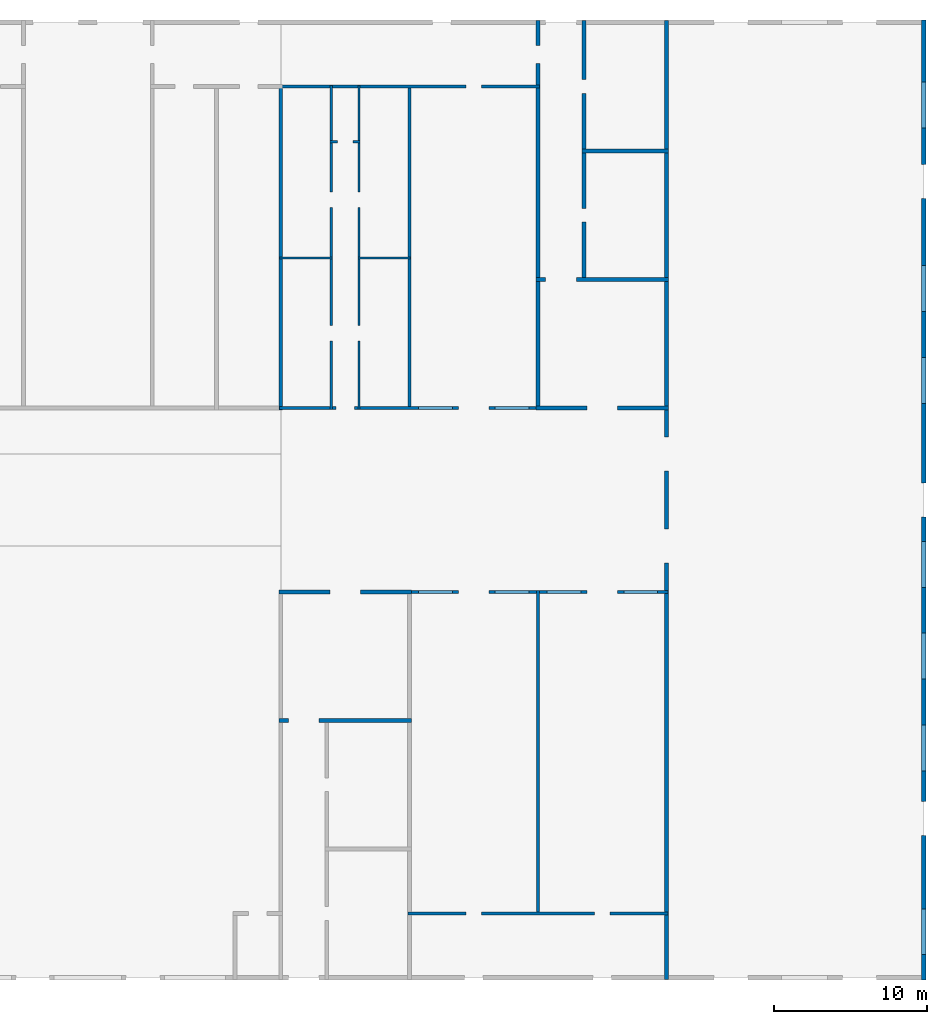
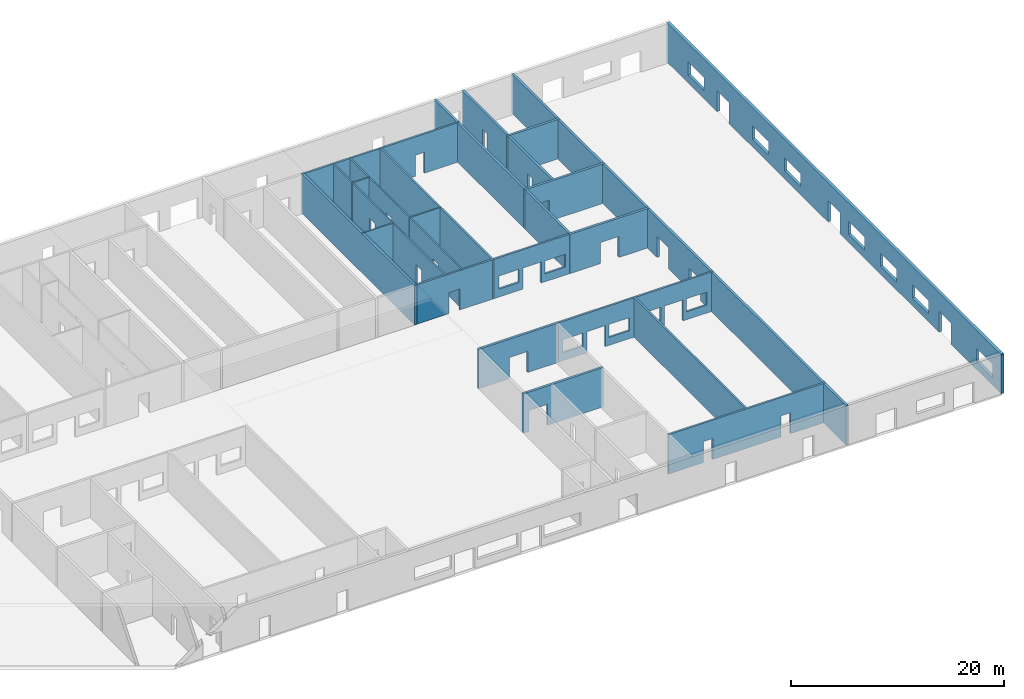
# One storey, part 3 of 3: 21 walls, 49 openings.
"""IFC4 building model written with IfcOpenShell, lengths in millimetres."""

from ifc_helpers import new_model, si_unit, frame, origin_with_axes, place, context, subcontext, project, spatial, indexed_curve, outline, extrude, type_object, element, save


model = new_model("IFC4")

# Units and contexts
model_context = context("Model", 3, precision=1e-05, world=origin_with_axes())
body_context = subcontext(model_context, "Body", "Model", "MODEL_VIEW")
ifc_project = project(units=[si_unit("AREAUNIT", "SQUARE_METRE"), si_unit("VOLUMEUNIT", "CUBIC_METRE"), si_unit("LENGTHUNIT", "METRE", prefix="MILLI")], contexts=[model_context])

# Site, building, storey
site = spatial("IfcSite", under=ifc_project, Name="PIN 00000000 (sample)")
building = spatial("IfcBuilding", under=site, Name="Sample Shopping Mall")
storey = spatial("IfcBuildingStorey", under=building, Name="Ground Floor", Elevation=0.0)

# Wall, openings
wall_type_1 = type_object("IfcWallType", Name="WT-300", PredefinedType="SOLIDWALL")
wall_1_placement = place(None, frame((114750.0, 15449.999999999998, 0.0), z_axis=(0.0, 0.0, 1.0), x_axis=(6.123233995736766e-17, 1.0, 0.0)))
wall_1 = element("IfcWall", 1, at=wall_1_placement, inside=storey, type_object=wall_type_1, Name="W59", context=body_context, shape_type="SweptSolid", body=[
    extrude(outline(indexed_curve([(0.0, 0.0), (0.0, 300.0), (62699.99999999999, 300.0), (62699.99999999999, 0.0), (0.0, 0.0)], self_intersect=False)), origin_with_axes(), (0.0, 0.0, 1.0), 4500.0),
])
opening_1_placement = place(wall_1_placement, frame((9450.0, -99.99999999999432, 0.0), z_axis=(0.0, 0.0, 1.0), x_axis=(1.0, 0.0, 0.0)))
element("IfcOpeningElement", 2, at=opening_1_placement, cuts=wall_1, Name="D16-opening", context=body_context, shape_type="SweptSolid", body=[
    extrude(outline(indexed_curve([(0.0, 0.0), (0.0, 500.0), (1100.0, 500.0), (1100.0, 0.0), (0.0, 0.0)], self_intersect=False)), origin_with_axes(), (0.0, 0.0, 1.0), 2400.0),
])
opening_2_placement = place(wall_1_placement, frame((10550.0, -99.99999999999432, 0.0), z_axis=(0.0, 0.0, 1.0), x_axis=(1.0, 0.0, 0.0)))
element("IfcOpeningElement", 3, at=opening_2_placement, cuts=wall_1, Name="-opening", context=body_context, shape_type="SweptSolid", body=[
    extrude(outline(indexed_curve([(0.0, 0.0), (0.0, 500.0), (1100.0, 500.0), (1100.0, 0.0), (0.0, 0.0)], self_intersect=False)), origin_with_axes(), (0.0, 0.0, 1.0), 2400.0),
])
opening_3_placement = place(wall_1_placement, frame((30250.000000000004, -99.99999999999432, 0.0), z_axis=(0.0, 0.0, 1.0), x_axis=(1.0, 0.0, 0.0)))
element("IfcOpeningElement", 4, at=opening_3_placement, cuts=wall_1, Name="D17-opening", context=body_context, shape_type="SweptSolid", body=[
    extrude(outline(indexed_curve([(0.0, 0.0), (0.0, 500.0), (1100.0, 500.0), (1100.0, 0.0), (0.0, 0.0)], self_intersect=False)), origin_with_axes(), (0.0, 0.0, 1.0), 2400.0),
])
opening_4_placement = place(wall_1_placement, frame((31349.999999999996, -99.99999999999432, 0.0), z_axis=(0.0, 0.0, 1.0), x_axis=(1.0, 0.0, 0.0)))
element("IfcOpeningElement", 5, at=opening_4_placement, cuts=wall_1, Name="-opening", context=body_context, shape_type="SweptSolid", body=[
    extrude(outline(indexed_curve([(0.0, 0.0), (0.0, 500.0), (1100.0, 500.0), (1100.0, 0.0), (0.0, 0.0)], self_intersect=False)), origin_with_axes(), (0.0, 0.0, 1.0), 2400.0),
])
opening_5_placement = place(wall_1_placement, frame((51049.99999999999, -99.99999999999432, 0.0), z_axis=(0.0, 0.0, 1.0), x_axis=(1.0, 0.0, 0.0)))
element("IfcOpeningElement", 6, at=opening_5_placement, cuts=wall_1, Name="D18-opening", context=body_context, shape_type="SweptSolid", body=[
    extrude(outline(indexed_curve([(0.0, 0.0), (0.0, 500.0), (1100.0, 500.0), (1100.0, 0.0), (0.0, 0.0)], self_intersect=False)), origin_with_axes(), (0.0, 0.0, 1.0), 2400.0),
])
opening_6_placement = place(wall_1_placement, frame((52149.99999999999, -99.99999999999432, 0.0), z_axis=(0.0, 0.0, 1.0), x_axis=(1.0, 0.0, 0.0)))
element("IfcOpeningElement", 7, at=opening_6_placement, cuts=wall_1, Name="-opening", context=body_context, shape_type="SweptSolid", body=[
    extrude(outline(indexed_curve([(0.0, 0.0), (0.0, 500.0), (1100.0, 500.0), (1100.0, 0.0), (0.0, 0.0)], self_intersect=False)), origin_with_axes(), (0.0, 0.0, 1.0), 2400.0),
])
opening_7_placement = place(wall_1_placement, frame((1650.000000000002, -99.99999999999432, 900.0), z_axis=(0.0, 0.0, 1.0), x_axis=(1.0, 0.0, 0.0)))
element("IfcOpeningElement", 8, at=opening_7_placement, cuts=wall_1, Name="-opening", context=body_context, shape_type="SweptSolid", body=[
    extrude(outline(indexed_curve([(0.0, 0.0), (0.0, 500.0), (3000.0, 500.0), (3000.0, 0.0), (0.0, 0.0)], self_intersect=False)), origin_with_axes(), (0.0, 0.0, 1.0), 1500.0),
])
opening_8_placement = place(wall_1_placement, frame((13650.000000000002, -99.99999999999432, 900.0), z_axis=(0.0, 0.0, 1.0), x_axis=(1.0, 0.0, 0.0)))
element("IfcOpeningElement", 9, at=opening_8_placement, cuts=wall_1, Name="-opening", context=body_context, shape_type="SweptSolid", body=[
    extrude(outline(indexed_curve([(0.0, 0.0), (0.0, 500.0), (3000.0, 500.0), (3000.0, 0.0), (0.0, 0.0)], self_intersect=False)), origin_with_axes(), (0.0, 0.0, 1.0), 1500.0),
])
opening_9_placement = place(wall_1_placement, frame((19650.0, -99.99999999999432, 900.0), z_axis=(0.0, 0.0, 1.0), x_axis=(1.0, 0.0, 0.0)))
element("IfcOpeningElement", 10, at=opening_9_placement, cuts=wall_1, Name="-opening", context=body_context, shape_type="SweptSolid", body=[
    extrude(outline(indexed_curve([(0.0, 0.0), (0.0, 500.0), (3000.0, 500.0), (3000.0, 0.0), (0.0, 0.0)], self_intersect=False)), origin_with_axes(), (0.0, 0.0, 1.0), 1500.0),
])
opening_10_placement = place(wall_1_placement, frame((25650.0, -99.99999999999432, 900.0), z_axis=(0.0, 0.0, 1.0), x_axis=(1.0, 0.0, 0.0)))
element("IfcOpeningElement", 11, at=opening_10_placement, cuts=wall_1, Name="-opening", context=body_context, shape_type="SweptSolid", body=[
    extrude(outline(indexed_curve([(0.0, 0.0), (0.0, 500.0), (3000.0, 500.0), (3000.0, 0.0), (0.0, 0.0)], self_intersect=False)), origin_with_axes(), (0.0, 0.0, 1.0), 1500.0),
])
opening_11_placement = place(wall_1_placement, frame((37650.00000000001, -99.99999999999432, 900.0), z_axis=(0.0, 0.0, 1.0), x_axis=(1.0, 0.0, 0.0)))
element("IfcOpeningElement", 12, at=opening_11_placement, cuts=wall_1, Name="-opening", context=body_context, shape_type="SweptSolid", body=[
    extrude(outline(indexed_curve([(0.0, 0.0), (0.0, 500.0), (3000.0, 500.0), (3000.0, 0.0), (0.0, 0.0)], self_intersect=False)), origin_with_axes(), (0.0, 0.0, 1.0), 1500.0),
])
opening_12_placement = place(wall_1_placement, frame((43650.00000000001, -99.99999999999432, 900.0), z_axis=(0.0, 0.0, 1.0), x_axis=(1.0, 0.0, 0.0)))
element("IfcOpeningElement", 13, at=opening_12_placement, cuts=wall_1, Name="-opening", context=body_context, shape_type="SweptSolid", body=[
    extrude(outline(indexed_curve([(0.0, 0.0), (0.0, 500.0), (3000.0, 500.0), (3000.0, 0.0), (0.0, 0.0)], self_intersect=False)), origin_with_axes(), (0.0, 0.0, 1.0), 1500.0),
])
opening_13_placement = place(wall_1_placement, frame((55650.00000000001, -99.99999999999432, 900.0), z_axis=(0.0, 0.0, 1.0), x_axis=(1.0, 0.0, 0.0)))
element("IfcOpeningElement", 14, at=opening_13_placement, cuts=wall_1, Name="-opening", context=body_context, shape_type="SweptSolid", body=[
    extrude(outline(indexed_curve([(0.0, 0.0), (0.0, 500.0), (3000.0, 500.0), (3000.0, 0.0), (0.0, 0.0)], self_intersect=False)), origin_with_axes(), (0.0, 0.0, 1.0), 1500.0),
])

wall_type_2 = type_object("IfcWallType", Name="WT-200", PredefinedType="SOLIDWALL")
wall_2_placement = place(None, frame((80900.0, 19700.0, 0.0), z_axis=(0.0, 0.0, 1.0), x_axis=(1.0, 0.0, 0.0)))
wall_2 = element("IfcWall", 15, at=wall_2_placement, inside=storey, type_object=wall_type_2, Name="W4", context=body_context, shape_type="SweptSolid", body=[
    extrude(outline(indexed_curve([(0.0, 0.0), (0.0, 200.0), (16999.999999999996, 200.0), (16999.999999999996, 0.0), (0.0, 0.0)], self_intersect=False)), origin_with_axes(), (0.0, 0.0, 1.0), 4500.0),
])
opening_14_placement = place(wall_2_placement, frame((3799.9999999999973, -99.99999999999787, 0.0), z_axis=(0.0, 0.0, 1.0), x_axis=(1.0, 0.0, 0.0)))
element("IfcOpeningElement", 16, at=opening_14_placement, cuts=wall_2, Name="-opening", context=body_context, shape_type="SweptSolid", body=[
    extrude(outline(indexed_curve([(0.0, 0.0), (0.0, 400.0), (1000.0, 400.0), (1000.0, 0.0), (0.0, 0.0)], self_intersect=False)), origin_with_axes(), (0.0, 0.0, 1.0), 2400.0),
])
opening_15_placement = place(wall_2_placement, frame((12199.999999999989, -99.99999999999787, 0.0), z_axis=(0.0, 0.0, 1.0), x_axis=(1.0, 0.0, 0.0)))
element("IfcOpeningElement", 17, at=opening_15_placement, cuts=wall_2, Name="-opening", context=body_context, shape_type="SweptSolid", body=[
    extrude(outline(indexed_curve([(0.0, 0.0), (0.0, 400.0), (1000.0, 400.0), (1000.0, 0.0), (0.0, 0.0)], self_intersect=False)), origin_with_axes(), (0.0, 0.0, 1.0), 2400.0),
])

wall_3_placement = place(None, frame((80900.0, 40699.99999999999, 0.0), z_axis=(0.0, 0.0, 1.0), x_axis=(1.0, 0.0, 0.0)))
wall_3 = element("IfcWall", 18, at=wall_3_placement, inside=storey, type_object=wall_type_2, Name="W12", context=body_context, shape_type="SweptSolid", body=[
    extrude(outline(indexed_curve([(0.0, 0.0), (0.0, 200.0), (16999.999999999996, 200.0), (16999.999999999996, 0.0), (0.0, 0.0)], self_intersect=False)), origin_with_axes(), (0.0, 0.0, 1.0), 4500.0),
])
opening_16_placement = place(wall_3_placement, frame((3299.9999999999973, -100.00000000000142, 0.0), z_axis=(0.0, 0.0, 1.0), x_axis=(1.0, 0.0, 0.0)))
element("IfcOpeningElement", 19, at=opening_16_placement, cuts=wall_3, Name="D46-opening", context=body_context, shape_type="SweptSolid", body=[
    extrude(outline(indexed_curve([(0.0, 0.0), (0.0, 400.0), (1000.0, 400.0), (1000.0, 0.0), (0.0, 0.0)], self_intersect=False)), origin_with_axes(), (0.0, 0.0, 1.0), 2400.0),
])
opening_17_placement = place(wall_3_placement, frame((4299.999999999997, -100.00000000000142, 0.0), z_axis=(0.0, 0.0, 1.0), x_axis=(1.0, 0.0, 0.0)))
element("IfcOpeningElement", 20, at=opening_17_placement, cuts=wall_3, Name="-opening", context=body_context, shape_type="SweptSolid", body=[
    extrude(outline(indexed_curve([(0.0, 0.0), (0.0, 400.0), (1000.0, 400.0), (1000.0, 0.0), (0.0, 0.0)], self_intersect=False)), origin_with_axes(), (0.0, 0.0, 1.0), 2400.0),
])
opening_18_placement = place(wall_3_placement, frame((11699.999999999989, -100.00000000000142, 0.0), z_axis=(0.0, 0.0, 1.0), x_axis=(1.0, 0.0, 0.0)))
element("IfcOpeningElement", 21, at=opening_18_placement, cuts=wall_3, Name="D48-opening", context=body_context, shape_type="SweptSolid", body=[
    extrude(outline(indexed_curve([(0.0, 0.0), (0.0, 400.0), (1000.0, 400.0), (1000.0, 0.0), (0.0, 0.0)], self_intersect=False)), origin_with_axes(), (0.0, 0.0, 1.0), 2400.0),
])
opening_19_placement = place(wall_3_placement, frame((12699.999999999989, -100.00000000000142, 0.0), z_axis=(0.0, 0.0, 1.0), x_axis=(1.0, 0.0, 0.0)))
element("IfcOpeningElement", 22, at=opening_19_placement, cuts=wall_3, Name="-opening", context=body_context, shape_type="SweptSolid", body=[
    extrude(outline(indexed_curve([(0.0, 0.0), (0.0, 400.0), (1000.0, 400.0), (1000.0, 0.0), (0.0, 0.0)], self_intersect=False)), origin_with_axes(), (0.0, 0.0, 1.0), 2400.0),
])
opening_20_placement = place(wall_3_placement, frame((699.9999999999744, -100.00000000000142, 900.0), z_axis=(0.0, 0.0, 1.0), x_axis=(1.0, 0.0, 0.0)))
element("IfcOpeningElement", 23, at=opening_20_placement, cuts=wall_3, Name="-opening", context=body_context, shape_type="SweptSolid", body=[
    extrude(outline(indexed_curve([(0.0, 0.0), (0.0, 400.0), (2200.0, 400.0), (2200.0, 0.0), (0.0, 0.0)], self_intersect=False)), origin_with_axes(), (0.0, 0.0, 1.0), 1500.0),
])
opening_21_placement = place(wall_3_placement, frame((5699.999999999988, -100.00000000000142, 900.0), z_axis=(0.0, 0.0, 1.0), x_axis=(1.0, 0.0, 0.0)))
element("IfcOpeningElement", 24, at=opening_21_placement, cuts=wall_3, Name="-opening", context=body_context, shape_type="SweptSolid", body=[
    extrude(outline(indexed_curve([(0.0, 0.0), (0.0, 400.0), (2200.0, 400.0), (2200.0, 0.0), (0.0, 0.0)], self_intersect=False)), origin_with_axes(), (0.0, 0.0, 1.0), 1500.0),
])
opening_22_placement = place(wall_3_placement, frame((9099.999999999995, -100.00000000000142, 900.0), z_axis=(0.0, 0.0, 1.0), x_axis=(1.0, 0.0, 0.0)))
element("IfcOpeningElement", 25, at=opening_22_placement, cuts=wall_3, Name="-opening", context=body_context, shape_type="SweptSolid", body=[
    extrude(outline(indexed_curve([(0.0, 0.0), (0.0, 400.0), (2200.0, 400.0), (2200.0, 0.0), (0.0, 0.0)], self_intersect=False)), origin_with_axes(), (0.0, 0.0, 1.0), 1500.0),
])
opening_23_placement = place(wall_3_placement, frame((14099.999999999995, -100.00000000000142, 900.0), z_axis=(0.0, 0.0, 1.0), x_axis=(1.0, 0.0, 0.0)))
element("IfcOpeningElement", 26, at=opening_23_placement, cuts=wall_3, Name="-opening", context=body_context, shape_type="SweptSolid", body=[
    extrude(outline(indexed_curve([(0.0, 0.0), (0.0, 400.0), (2200.0, 400.0), (2200.0, 0.0), (0.0, 0.0)], self_intersect=False)), origin_with_axes(), (0.0, 0.0, 1.0), 1500.0),
])

wall_4_placement = place(None, frame((72500.0, 52699.99999999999, 0.0), z_axis=(0.0, 0.0, 1.0), x_axis=(1.0, 0.0, 0.0)))
wall_4 = element("IfcWall", 27, at=wall_4_placement, inside=storey, type_object=wall_type_2, Name="W15", context=body_context, shape_type="SweptSolid", body=[
    extrude(outline(indexed_curve([(0.0, 0.0), (0.0, 200.0), (17000.00000000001, 200.0), (17000.00000000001, 0.0), (0.0, 0.0)], self_intersect=False)), origin_with_axes(), (0.0, 0.0, 1.0), 4500.0),
])
opening_24_placement = place(wall_4_placement, frame((3699.9999999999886, -100.00000000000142, 0.0), z_axis=(0.0, 0.0, 1.0), x_axis=(1.0, 0.0, 0.0)))
element("IfcOpeningElement", 28, at=opening_24_placement, cuts=wall_4, Name="D68-opening", context=body_context, shape_type="SweptSolid", body=[
    extrude(outline(indexed_curve([(0.0, 0.0), (0.0, 400.0), (1200.0, 400.0), (1200.0, 0.0), (0.0, 0.0)], self_intersect=False)), origin_with_axes(), (0.0, 0.0, 1.0), 2400.0),
])
opening_25_placement = place(wall_4_placement, frame((11699.999999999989, -100.00000000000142, 0.0), z_axis=(0.0, 0.0, 1.0), x_axis=(1.0, 0.0, 0.0)))
element("IfcOpeningElement", 29, at=opening_25_placement, cuts=wall_4, Name="D74-opening", context=body_context, shape_type="SweptSolid", body=[
    extrude(outline(indexed_curve([(0.0, 0.0), (0.0, 400.0), (1000.0, 400.0), (1000.0, 0.0), (0.0, 0.0)], self_intersect=False)), origin_with_axes(), (0.0, 0.0, 1.0), 2400.0),
])
opening_26_placement = place(wall_4_placement, frame((12699.999999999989, -100.00000000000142, 0.0), z_axis=(0.0, 0.0, 1.0), x_axis=(1.0, 0.0, 0.0)))
element("IfcOpeningElement", 30, at=opening_26_placement, cuts=wall_4, Name="-opening", context=body_context, shape_type="SweptSolid", body=[
    extrude(outline(indexed_curve([(0.0, 0.0), (0.0, 400.0), (1000.0, 400.0), (1000.0, 0.0), (0.0, 0.0)], self_intersect=False)), origin_with_axes(), (0.0, 0.0, 1.0), 2400.0),
])
opening_27_placement = place(wall_4_placement, frame((9099.99999999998, -100.00000000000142, 900.0), z_axis=(0.0, 0.0, 1.0), x_axis=(1.0, 0.0, 0.0)))
element("IfcOpeningElement", 31, at=opening_27_placement, cuts=wall_4, Name="-opening", context=body_context, shape_type="SweptSolid", body=[
    extrude(outline(indexed_curve([(0.0, 0.0), (0.0, 400.0), (2200.0, 400.0), (2200.0, 0.0), (0.0, 0.0)], self_intersect=False)), origin_with_axes(), (0.0, 0.0, 1.0), 1500.0),
])
opening_28_placement = place(wall_4_placement, frame((14099.999999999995, -100.00000000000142, 900.0), z_axis=(0.0, 0.0, 1.0), x_axis=(1.0, 0.0, 0.0)))
element("IfcOpeningElement", 32, at=opening_28_placement, cuts=wall_4, Name="-opening", context=body_context, shape_type="SweptSolid", body=[
    extrude(outline(indexed_curve([(0.0, 0.0), (0.0, 400.0), (2200.0, 400.0), (2200.0, 0.0), (0.0, 0.0)], self_intersect=False)), origin_with_axes(), (0.0, 0.0, 1.0), 1500.0),
])

# Wall, opening
wall_5_placement = place(None, frame((72500.0, 73700.0, 0.0), z_axis=(0.0, 0.0, 1.0), x_axis=(1.0, 0.0, 0.0)))
wall_5 = element("IfcWall", 33, at=wall_5_placement, inside=storey, type_object=wall_type_2, Name="W28", context=body_context, shape_type="SweptSolid", body=[
    extrude(outline(indexed_curve([(0.0, 0.0), (0.0, 200.0), (17000.00000000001, 200.0), (17000.00000000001, 0.0), (0.0, 0.0)], self_intersect=False)), origin_with_axes(), (0.0, 0.0, 1.0), 4500.0),
])
opening_29_placement = place(wall_5_placement, frame((12199.999999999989, -99.99999999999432, 0.0), z_axis=(0.0, 0.0, 1.0), x_axis=(1.0, 0.0, 0.0)))
element("IfcOpeningElement", 34, at=opening_29_placement, cuts=wall_5, Name="-opening", context=body_context, shape_type="SweptSolid", body=[
    extrude(outline(indexed_curve([(0.0, 0.0), (0.0, 400.0), (1000.0, 400.0), (1000.0, 0.0), (0.0, 0.0)], self_intersect=False)), origin_with_axes(), (0.0, 0.0, 1.0), 2400.0),
])

# Walls
wall_6_placement = place(None, frame((81099.99999999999, 52699.99999999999, 0.0), z_axis=(0.0, 0.0, 1.0), x_axis=(6.123233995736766e-17, 1.0, 0.0)))
element("IfcWall", 35, at=wall_6_placement, inside=storey, type_object=wall_type_2, Name="W54", context=body_context, shape_type="SweptSolid", body=[
    extrude(outline(indexed_curve([(0.0, 0.0), (0.0, 200.0), (21200.0, 200.0), (21200.0, 0.0), (0.0, 0.0)], self_intersect=False)), origin_with_axes(), (0.0, 0.0, 1.0), 4500.0),
])
wall_7_placement = place(None, frame((89500.0, 19700.0, 0.0), z_axis=(0.0, 0.0, 1.0), x_axis=(6.123233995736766e-17, 1.0, 0.0)))
element("IfcWall", 36, at=wall_7_placement, inside=storey, type_object=wall_type_2, Name="W55", context=body_context, shape_type="SweptSolid", body=[
    extrude(outline(indexed_curve([(0.0, 0.0), (0.0, 200.0), (21199.999999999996, 200.0), (21199.999999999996, 0.0), (0.0, 0.0)], self_intersect=False)), origin_with_axes(), (0.0, 0.0, 1.0), 4500.0),
])

# Wall, openings
wall_type_3 = type_object("IfcWallType", Name="WT-250", PredefinedType="SOLIDWALL")
wall_8_placement = place(None, frame((72475.0, 32274.999999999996, 0.0), z_axis=(0.0, 0.0, 1.0), x_axis=(1.0, 0.0, 0.0)))
wall_8 = element("IfcWall", 37, at=wall_8_placement, inside=storey, type_object=wall_type_3, Name="W8", context=body_context, shape_type="SweptSolid", body=[
    extrude(outline(indexed_curve([(0.0, 0.0), (0.0, 250.0), (8650.000000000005, 250.0), (8650.000000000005, 0.0), (0.0, 0.0)], self_intersect=False)), origin_with_axes(), (0.0, 0.0, 1.0), 4500.0),
])
opening_30_placement = place(wall_8_placement, frame((625.0, -100.00000000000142, 0.0), z_axis=(0.0, 0.0, 1.0), x_axis=(1.0, 0.0, 0.0)))
element("IfcOpeningElement", 38, at=opening_30_placement, cuts=wall_8, Name="D42-opening", context=body_context, shape_type="SweptSolid", body=[
    extrude(outline(indexed_curve([(0.0, 0.0), (0.0, 450.0), (1000.0, 450.0), (1000.0, 0.0), (0.0, 0.0)], self_intersect=False)), origin_with_axes(), (0.0, 0.0, 1.0), 2400.0),
])
opening_31_placement = place(wall_8_placement, frame((1625.0, -100.00000000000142, 0.0), z_axis=(0.0, 0.0, 1.0), x_axis=(1.0, 0.0, 0.0)))
element("IfcOpeningElement", 39, at=opening_31_placement, cuts=wall_8, Name="-opening", context=body_context, shape_type="SweptSolid", body=[
    extrude(outline(indexed_curve([(0.0, 0.0), (0.0, 450.0), (1000.0, 450.0), (1000.0, 0.0), (0.0, 0.0)], self_intersect=False)), origin_with_axes(), (0.0, 0.0, 1.0), 2400.0),
])

wall_9_placement = place(None, frame((72475.0, 40674.99999999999, 0.0), z_axis=(0.0, 0.0, 1.0), x_axis=(1.0, 0.0, 0.0)))
wall_9 = element("IfcWall", 40, at=wall_9_placement, inside=storey, type_object=wall_type_3, Name="W11", context=body_context, shape_type="SweptSolid", body=[
    extrude(outline(indexed_curve([(0.0, 0.0), (0.0, 250.0), (8650.000000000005, 250.0), (8650.000000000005, 0.0), (0.0, 0.0)], self_intersect=False)), origin_with_axes(), (0.0, 0.0, 1.0), 4500.0),
])
opening_32_placement = place(wall_9_placement, frame((3324.9999999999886, -99.99999999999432, 0.0), z_axis=(0.0, 0.0, 1.0), x_axis=(1.0, 0.0, 0.0)))
element("IfcOpeningElement", 41, at=opening_32_placement, cuts=wall_9, Name="D41-opening", context=body_context, shape_type="SweptSolid", body=[
    extrude(outline(indexed_curve([(0.0, 0.0), (0.0, 450.0), (1000.0, 450.0), (1000.0, 0.0), (0.0, 0.0)], self_intersect=False)), origin_with_axes(), (0.0, 0.0, 1.0), 2400.0),
])
opening_33_placement = place(wall_9_placement, frame((4324.999999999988, -99.99999999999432, 0.0), z_axis=(0.0, 0.0, 1.0), x_axis=(1.0, 0.0, 0.0)))
element("IfcOpeningElement", 42, at=opening_33_placement, cuts=wall_9, Name="-opening", context=body_context, shape_type="SweptSolid", body=[
    extrude(outline(indexed_curve([(0.0, 0.0), (0.0, 450.0), (1000.0, 450.0), (1000.0, 0.0), (0.0, 0.0)], self_intersect=False)), origin_with_axes(), (0.0, 0.0, 1.0), 2400.0),
])

wall_10_placement = place(None, frame((89275.0, 52674.99999999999, 0.0), z_axis=(0.0, 0.0, 1.0), x_axis=(1.0, 0.0, 0.0)))
wall_10 = element("IfcWall", 43, at=wall_10_placement, inside=storey, type_object=wall_type_3, Name="W16", context=body_context, shape_type="SweptSolid", body=[
    extrude(outline(indexed_curve([(0.0, 0.0), (0.0, 250.0), (8649.99999999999, 250.0), (8649.99999999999, 0.0), (0.0, 0.0)], self_intersect=False)), origin_with_axes(), (0.0, 0.0, 1.0), 4500.0),
])
opening_34_placement = place(wall_10_placement, frame((3325.0000000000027, -100.00000000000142, 0.0), z_axis=(0.0, 0.0, 1.0), x_axis=(1.0, 0.0, 0.0)))
element("IfcOpeningElement", 44, at=opening_34_placement, cuts=wall_10, Name="D76-opening", context=body_context, shape_type="SweptSolid", body=[
    extrude(outline(indexed_curve([(0.0, 0.0), (0.0, 450.0), (1000.0, 450.0), (1000.0, 0.0), (0.0, 0.0)], self_intersect=False)), origin_with_axes(), (0.0, 0.0, 1.0), 2400.0),
])
opening_35_placement = place(wall_10_placement, frame((4325.000000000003, -100.00000000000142, 0.0), z_axis=(0.0, 0.0, 1.0), x_axis=(1.0, 0.0, 0.0)))
element("IfcOpeningElement", 45, at=opening_35_placement, cuts=wall_10, Name="-opening", context=body_context, shape_type="SweptSolid", body=[
    extrude(outline(indexed_curve([(0.0, 0.0), (0.0, 450.0), (1000.0, 450.0), (1000.0, 0.0), (0.0, 0.0)], self_intersect=False)), origin_with_axes(), (0.0, 0.0, 1.0), 2400.0),
])

wall_11_placement = place(None, frame((89275.0, 61075.0, 0.0), z_axis=(0.0, 0.0, 1.0), x_axis=(1.0, 0.0, 0.0)))
wall_11 = element("IfcWall", 46, at=wall_11_placement, inside=storey, type_object=wall_type_3, Name="W17", context=body_context, shape_type="SweptSolid", body=[
    extrude(outline(indexed_curve([(0.0, 0.0), (0.0, 250.0), (8649.99999999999, 250.0), (8649.99999999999, 0.0), (0.0, 0.0)], self_intersect=False)), origin_with_axes(), (0.0, 0.0, 1.0), 4500.0),
])
opening_36_placement = place(wall_11_placement, frame((625.0, -100.00000000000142, 0.0), z_axis=(0.0, 0.0, 1.0), x_axis=(1.0, 0.0, 0.0)))
element("IfcOpeningElement", 47, at=opening_36_placement, cuts=wall_11, Name="D77-opening", context=body_context, shape_type="SweptSolid", body=[
    extrude(outline(indexed_curve([(0.0, 0.0), (0.0, 450.0), (1000.0, 450.0), (1000.0, 0.0), (0.0, 0.0)], self_intersect=False)), origin_with_axes(), (0.0, 0.0, 1.0), 2400.0),
])
opening_37_placement = place(wall_11_placement, frame((1625.0, -100.00000000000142, 0.0), z_axis=(0.0, 0.0, 1.0), x_axis=(1.0, 0.0, 0.0)))
element("IfcOpeningElement", 48, at=opening_37_placement, cuts=wall_11, Name="-opening", context=body_context, shape_type="SweptSolid", body=[
    extrude(outline(indexed_curve([(0.0, 0.0), (0.0, 450.0), (1000.0, 450.0), (1000.0, 0.0), (0.0, 0.0)], self_intersect=False)), origin_with_axes(), (0.0, 0.0, 1.0), 2400.0),
])

# Walls
wall_12_placement = place(None, frame((92275.0, 69475.0, 0.0), z_axis=(0.0, 0.0, 1.0), x_axis=(1.0, 0.0, 0.0)))
element("IfcWall", 49, at=wall_12_placement, inside=storey, type_object=wall_type_3, Name="W22", context=body_context, shape_type="SweptSolid", body=[
    extrude(outline(indexed_curve([(0.0, 0.0), (0.0, 250.0), (5649.999999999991, 250.0), (5649.999999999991, 0.0), (0.0, 0.0)], self_intersect=False)), origin_with_axes(), (0.0, 0.0, 1.0), 4500.0),
])
wall_13_placement = place(None, frame((72725.0, 52674.99999999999, 0.0), z_axis=(0.0, 0.0, 1.0), x_axis=(6.123233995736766e-17, 1.0, 0.0)))
element("IfcWall", 50, at=wall_13_placement, inside=storey, type_object=wall_type_3, Name="W49", context=body_context, shape_type="SweptSolid", body=[
    extrude(outline(indexed_curve([(0.0, 0.0), (0.0, 250.0), (21250.0, 250.0), (21250.0, 0.0), (0.0, 0.0)], self_intersect=False)), origin_with_axes(), (0.0, 0.0, 1.0), 4500.0),
])

# Wall, opening
wall_14_placement = place(None, frame((89525.0, 52674.99999999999, 0.0), z_axis=(0.0, 0.0, 1.0), x_axis=(6.123233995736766e-17, 1.0, 0.0)))
wall_14 = element("IfcWall", 51, at=wall_14_placement, inside=storey, type_object=wall_type_3, Name="W56", context=body_context, shape_type="SweptSolid", body=[
    extrude(outline(indexed_curve([(0.0, 0.0), (0.0, 250.0), (25450.000000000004, 250.0), (25450.000000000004, 0.0), (0.0, 0.0)], self_intersect=False)), origin_with_axes(), (0.0, 0.0, 1.0), 4500.0),
])
opening_38_placement = place(wall_14_placement, frame((22624.999999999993, -99.99999999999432, 0.0), z_axis=(0.0, 0.0, 1.0), x_axis=(1.0, 0.0, 0.0)))
element("IfcOpeningElement", 52, at=opening_38_placement, cuts=wall_14, Name="-opening", context=body_context, shape_type="SweptSolid", body=[
    extrude(outline(indexed_curve([(0.0, 0.0), (0.0, 450.0), (1200.0, 450.0), (1200.0, 0.0), (0.0, 0.0)], self_intersect=False)), origin_with_axes(), (0.0, 0.0, 1.0), 2400.0),
])

# Wall, openings
wall_15_placement = place(None, frame((92525.0, 61075.0, 0.0), z_axis=(0.0, 0.0, 1.0), x_axis=(6.123233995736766e-17, 1.0, 0.0)))
wall_15 = element("IfcWall", 53, at=wall_15_placement, inside=storey, type_object=wall_type_3, Name="W57", context=body_context, shape_type="SweptSolid", body=[
    extrude(outline(indexed_curve([(0.0, 0.0), (0.0, 250.0), (17049.999999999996, 250.0), (17049.999999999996, 0.0), (0.0, 0.0)], self_intersect=False)), origin_with_axes(), (0.0, 0.0, 1.0), 4500.0),
])
opening_39_placement = place(wall_15_placement, frame((3874.9999999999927, -99.99999999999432, 0.0), z_axis=(0.0, 0.0, 1.0), x_axis=(1.0, 0.0, 0.0)))
element("IfcOpeningElement", 54, at=opening_39_placement, cuts=wall_15, Name="-opening", context=body_context, shape_type="SweptSolid", body=[
    extrude(outline(indexed_curve([(0.0, 0.0), (0.0, 450.0), (900.0, 450.0), (900.0, 0.0), (0.0, 0.0)], self_intersect=False)), origin_with_axes(), (0.0, 0.0, 1.0), 2400.0),
])
opening_40_placement = place(wall_15_placement, frame((12274.999999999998, -99.99999999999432, 0.0), z_axis=(0.0, 0.0, 1.0), x_axis=(1.0, 0.0, 0.0)))
element("IfcOpeningElement", 55, at=opening_40_placement, cuts=wall_15, Name="-opening", context=body_context, shape_type="SweptSolid", body=[
    extrude(outline(indexed_curve([(0.0, 0.0), (0.0, 450.0), (900.0, 450.0), (900.0, 0.0), (0.0, 0.0)], self_intersect=False)), origin_with_axes(), (0.0, 0.0, 1.0), 2400.0),
])

wall_16_placement = place(None, frame((97925.0, 15475.0, 0.0), z_axis=(0.0, 0.0, 1.0), x_axis=(6.123233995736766e-17, 1.0, 0.0)))
wall_16 = element("IfcWall", 56, at=wall_16_placement, inside=storey, type_object=wall_type_3, Name="W58", context=body_context, shape_type="SweptSolid", body=[
    extrude(outline(indexed_curve([(0.0, 0.0), (0.0, 250.0), (62650.0, 250.0), (62650.0, 0.0), (0.0, 0.0)], self_intersect=False)), origin_with_axes(), (0.0, 0.0, 1.0), 4500.0),
])
opening_41_placement = place(wall_16_placement, frame((27225.000000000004, -99.99999999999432, 0.0), z_axis=(0.0, 0.0, 1.0), x_axis=(1.0, 0.0, 0.0)))
element("IfcOpeningElement", 57, at=opening_41_placement, cuts=wall_16, Name="D14-opening", context=body_context, shape_type="SweptSolid", body=[
    extrude(outline(indexed_curve([(0.0, 0.0), (0.0, 450.0), (1100.0, 450.0), (1100.0, 0.0), (0.0, 0.0)], self_intersect=False)), origin_with_axes(), (0.0, 0.0, 1.0), 2400.0),
])
opening_42_placement = place(wall_16_placement, frame((28325.0, -99.99999999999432, 0.0), z_axis=(0.0, 0.0, 1.0), x_axis=(1.0, 0.0, 0.0)))
element("IfcOpeningElement", 58, at=opening_42_placement, cuts=wall_16, Name="-opening", context=body_context, shape_type="SweptSolid", body=[
    extrude(outline(indexed_curve([(0.0, 0.0), (0.0, 450.0), (1100.0, 450.0), (1100.0, 0.0), (0.0, 0.0)], self_intersect=False)), origin_with_axes(), (0.0, 0.0, 1.0), 2400.0),
])
opening_43_placement = place(wall_16_placement, frame((33225.00000000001, -99.99999999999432, 0.0), z_axis=(0.0, 0.0, 1.0), x_axis=(1.0, 0.0, 0.0)))
element("IfcOpeningElement", 59, at=opening_43_placement, cuts=wall_16, Name="D15-opening", context=body_context, shape_type="SweptSolid", body=[
    extrude(outline(indexed_curve([(0.0, 0.0), (0.0, 450.0), (1100.0, 450.0), (1100.0, 0.0), (0.0, 0.0)], self_intersect=False)), origin_with_axes(), (0.0, 0.0, 1.0), 2400.0),
])
opening_44_placement = place(wall_16_placement, frame((34325.0, -99.99999999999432, 0.0), z_axis=(0.0, 0.0, 1.0), x_axis=(1.0, 0.0, 0.0)))
element("IfcOpeningElement", 60, at=opening_44_placement, cuts=wall_16, Name="-opening", context=body_context, shape_type="SweptSolid", body=[
    extrude(outline(indexed_curve([(0.0, 0.0), (0.0, 450.0), (1100.0, 450.0), (1100.0, 0.0), (0.0, 0.0)], self_intersect=False)), origin_with_axes(), (0.0, 0.0, 1.0), 2400.0),
])

# Walls
wall_type_4 = type_object("IfcWallType", Name="WT-150", PredefinedType="SOLIDWALL")
wall_17_placement = place(None, frame((72524.99999999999, 62525.0, 0.0), z_axis=(0.0, 0.0, 1.0), x_axis=(1.0, 0.0, 0.0)))
element("IfcWall", 61, at=wall_17_placement, inside=storey, type_object=wall_type_4, Name="W20", context=body_context, shape_type="SweptSolid", body=[
    extrude(outline(indexed_curve([(0.0, 0.0), (0.0, 150.0), (3450.0000000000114, 150.0), (3450.0000000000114, 0.0), (0.0, 0.0)], self_intersect=False)), origin_with_axes(), (0.0, 0.0, 1.0), 4500.0),
])
wall_18_placement = place(None, frame((77625.0, 62525.0, 0.0), z_axis=(0.0, 0.0, 1.0), x_axis=(1.0, 0.0, 0.0)))
element("IfcWall", 62, at=wall_18_placement, inside=storey, type_object=wall_type_4, Name="W21", context=body_context, shape_type="SweptSolid", body=[
    extrude(outline(indexed_curve([(0.0, 0.0), (0.0, 150.0), (3449.999999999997, 150.0), (3449.999999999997, 0.0), (0.0, 0.0)], self_intersect=False)), origin_with_axes(), (0.0, 0.0, 1.0), 4500.0),
])

# Wall, opening
wall_19_placement = place(None, frame((75825.0, 70125.0, 0.0), z_axis=(0.0, 0.0, 1.0), x_axis=(1.0, 0.0, 0.0)))
wall_19 = element("IfcWall", 63, at=wall_19_placement, inside=storey, type_object=wall_type_4, Name="W24", context=body_context, shape_type="SweptSolid", body=[
    extrude(outline(indexed_curve([(0.0, 0.0), (0.0, 150.0), (1949.999999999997, 150.0), (1949.999999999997, 0.0), (0.0, 0.0)], self_intersect=False)), origin_with_axes(), (0.0, 0.0, 1.0), 4500.0),
])
opening_45_placement = place(wall_19_placement, frame((475.0000000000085, -99.99999999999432, 0.0), z_axis=(0.0, 0.0, 1.0), x_axis=(1.0, 0.0, 0.0)))
element("IfcOpeningElement", 64, at=opening_45_placement, cuts=wall_19, Name="-opening", context=body_context, shape_type="SweptSolid", body=[
    extrude(outline(indexed_curve([(0.0, 0.0), (0.0, 349.99999999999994), (1000.0, 349.99999999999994), (1000.0, 0.0), (0.0, 0.0)], self_intersect=False)), origin_with_axes(), (0.0, 0.0, 1.0), 2400.0),
])

# Wall, openings
wall_20_placement = place(None, frame((75975.0, 52724.99999999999, 0.0), z_axis=(0.0, 0.0, 1.0), x_axis=(6.123233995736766e-17, 1.0, 0.0)))
wall_20 = element("IfcWall", 65, at=wall_20_placement, inside=storey, type_object=wall_type_4, Name="W51", context=body_context, shape_type="SweptSolid", body=[
    extrude(outline(indexed_curve([(0.0, 0.0), (0.0, 150.0), (21149.999999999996, 150.0), (21149.999999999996, 0.0), (0.0, 0.0)], self_intersect=False)), origin_with_axes(), (0.0, 0.0, 1.0), 4500.0),
])
opening_46_placement = place(wall_20_placement, frame((4475.000000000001, -99.99999999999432, 0.0), z_axis=(0.0, 0.0, 1.0), x_axis=(1.0, 0.0, 0.0)))
element("IfcOpeningElement", 66, at=opening_46_placement, cuts=wall_20, Name="-opening", context=body_context, shape_type="SweptSolid", body=[
    extrude(outline(indexed_curve([(0.0, 0.0), (0.0, 349.99999999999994), (1000.0, 349.99999999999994), (1000.0, 0.0), (0.0, 0.0)], self_intersect=False)), origin_with_axes(), (0.0, 0.0, 1.0), 2400.0),
])
opening_47_placement = place(wall_20_placement, frame((13174.999999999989, -99.99999999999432, 0.0), z_axis=(0.0, 0.0, 1.0), x_axis=(1.0, 0.0, 0.0)))
element("IfcOpeningElement", 67, at=opening_47_placement, cuts=wall_20, Name="-opening", context=body_context, shape_type="SweptSolid", body=[
    extrude(outline(indexed_curve([(0.0, 0.0), (0.0, 349.99999999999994), (1000.0, 349.99999999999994), (1000.0, 0.0), (0.0, 0.0)], self_intersect=False)), origin_with_axes(), (0.0, 0.0, 1.0), 2400.0),
])

wall_21_placement = place(None, frame((77775.0, 52724.99999999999, 0.0), z_axis=(0.0, 0.0, 1.0), x_axis=(6.123233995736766e-17, 1.0, 0.0)))
wall_21 = element("IfcWall", 68, at=wall_21_placement, inside=storey, type_object=wall_type_4, Name="W52", context=body_context, shape_type="SweptSolid", body=[
    extrude(outline(indexed_curve([(0.0, 0.0), (0.0, 150.0), (21149.999999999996, 150.0), (21149.999999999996, 0.0), (0.0, 0.0)], self_intersect=False)), origin_with_axes(), (0.0, 0.0, 1.0), 4500.0),
])
opening_48_placement = place(wall_21_placement, frame((4475.000000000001, -99.99999999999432, 0.0), z_axis=(0.0, 0.0, 1.0), x_axis=(1.0, 0.0, 0.0)))
element("IfcOpeningElement", 69, at=opening_48_placement, cuts=wall_21, Name="-opening", context=body_context, shape_type="SweptSolid", body=[
    extrude(outline(indexed_curve([(0.0, 0.0), (0.0, 349.99999999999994), (1000.0, 349.99999999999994), (1000.0, 0.0), (0.0, 0.0)], self_intersect=False)), origin_with_axes(), (0.0, 0.0, 1.0), 2400.0),
])
opening_49_placement = place(wall_21_placement, frame((13174.999999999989, -99.99999999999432, 0.0), z_axis=(0.0, 0.0, 1.0), x_axis=(1.0, 0.0, 0.0)))
element("IfcOpeningElement", 70, at=opening_49_placement, cuts=wall_21, Name="-opening", context=body_context, shape_type="SweptSolid", body=[
    extrude(outline(indexed_curve([(0.0, 0.0), (0.0, 349.99999999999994), (1000.0, 349.99999999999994), (1000.0, 0.0), (0.0, 0.0)], self_intersect=False)), origin_with_axes(), (0.0, 0.0, 1.0), 2400.0),
])

save(model, "model.ifc")
